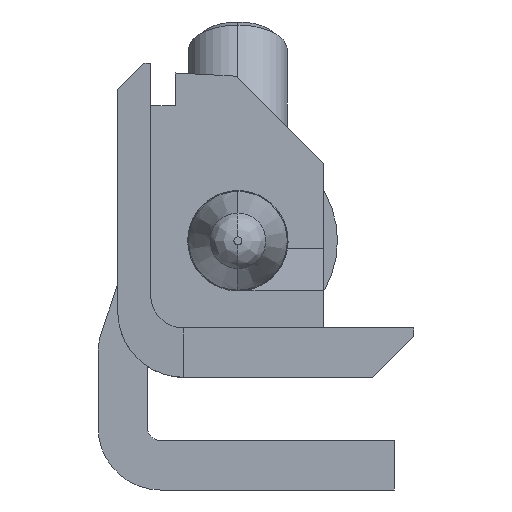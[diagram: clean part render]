
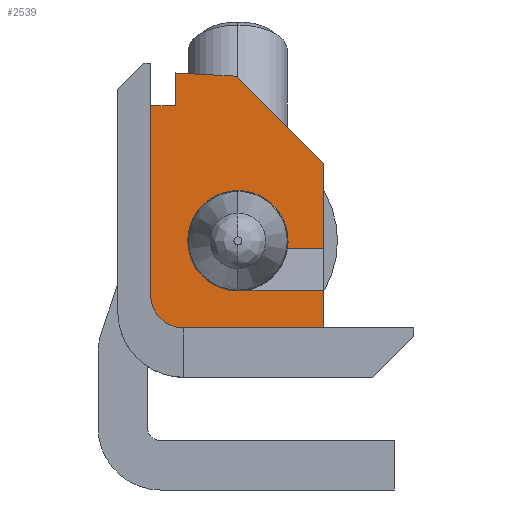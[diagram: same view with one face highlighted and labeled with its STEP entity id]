
A CAD part, left-side view. The second image highlights one B-rep face of the part: STEP entity #2539.
In plain terms, the highlighted planar face has unit normal (-1, -0.018, 0).
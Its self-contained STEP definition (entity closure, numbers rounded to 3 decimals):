
#5 =( BOUNDED_CURVE ( )  B_SPLINE_CURVE ( 3, ( #2152, #1087, #228, #650 ),
 .UNSPECIFIED., .F., .F. ) 
 B_SPLINE_CURVE_WITH_KNOTS ( ( 4, 4 ),
 ( 4.712, 7.854 ),
 .UNSPECIFIED. ) 
 CURVE ( )  GEOMETRIC_REPRESENTATION_ITEM ( )  RATIONAL_B_SPLINE_CURVE ( ( 1., 0.333, 0.333, 1. ) ) 
 REPRESENTATION_ITEM ( '' )  );
#17 = EDGE_CURVE ( 'NONE', #823, #657, #2260, .T. ) ;
#31 = ORIENTED_EDGE ( 'NONE', *, *, #675, .T. ) ;
#32 = CARTESIAN_POINT ( 'NONE',  ( -10.5, -5.2, 4.7 ) ) ;
#74 = EDGE_CURVE ( 'NONE', #1156, #424, #1556, .T. ) ;
#76 = EDGE_CURVE ( 'NONE', #1465, #385, #5, .T. ) ;
#86 = LINE ( 'NONE', #800, #2343 ) ;
#124 = CARTESIAN_POINT ( 'NONE',  ( -10.669, 4.472, -5.3 ) ) ;
#139 = DIRECTION ( 'NONE',  ( 0., 0., -1. ) ) ;
#164 = DIRECTION ( 'NONE',  ( 0., 0., 1. ) ) ;
#167 = CARTESIAN_POINT ( 'NONE',  ( -10.683, 5.3, -3.3 ) ) ;
#185 = LINE ( 'NONE', #2712, #1261 ) ;
#209 = VECTOR ( 'NONE', #1221, 1000. ) ;
#228 = CARTESIAN_POINT ( 'NONE',  ( -10.697, 6.1, 3.05 ) ) ;
#231 = ORIENTED_EDGE ( 'NONE', *, *, #1606, .T. ) ;
#249 = VECTOR ( 'NONE', #2372, 1000. ) ;
#276 = LINE ( 'NONE', #1382, #209 ) ;
#282 = VECTOR ( 'NONE', #2734, 1000. ) ;
#306 = CARTESIAN_POINT ( 'NONE',  ( -10.581, -0.55, -3. ) ) ;
#324 =( BOUNDED_CURVE ( )  B_SPLINE_CURVE ( 3, ( #1960, #1316, #2573, #1099 ),
 .UNSPECIFIED., .F., .T. ) 
 B_SPLINE_CURVE_WITH_KNOTS ( ( 4, 4 ),
 ( 1.571, 3.305 ),
 .UNSPECIFIED. ) 
 CURVE ( )  GEOMETRIC_REPRESENTATION_ITEM ( )  RATIONAL_B_SPLINE_CURVE ( ( 1., 0.765, 0.765, 1. ) ) 
 REPRESENTATION_ITEM ( '' )  );
#358 = CARTESIAN_POINT ( 'NONE',  ( -10.588, -0.185, -3.05 ) ) ;
#375 = VERTEX_POINT ( 'NONE', #777 ) ;
#385 = VERTEX_POINT ( 'NONE', #2676 ) ;
#401 = CARTESIAN_POINT ( 'NONE',  ( -10.648, 3.3, -5.3 ) ) ;
#413 = VERTEX_POINT ( 'NONE', #974 ) ;
#424 = VERTEX_POINT ( 'NONE', #1834 ) ;
#473 = CARTESIAN_POINT ( 'NONE',  ( -10.5, -5.2, 8.2 ) ) ;
#552 = LINE ( 'NONE', #934, #2415 ) ;
#592 = DIRECTION ( 'NONE',  ( -1., -0.017, 0. ) ) ;
#604 = ORIENTED_EDGE ( 'NONE', *, *, #642, .T. ) ;
#627 = VERTEX_POINT ( 'NONE', #682 ) ;
#642 = EDGE_CURVE ( 'NONE', #385, #627, #324, .T. ) ;
#650 = CARTESIAN_POINT ( 'NONE',  ( -10.591, 0., 3.05 ) ) ;
#657 = VERTEX_POINT ( 'NONE', #1300 ) ;
#675 = EDGE_CURVE ( 'NONE', #375, #1030, #1482, .T. ) ;
#682 = CARTESIAN_POINT ( 'NONE',  ( -10.538, -3.009, -0.497 ) ) ;
#689 = ORIENTED_EDGE ( 'NONE', *, *, #17, .T. ) ;
#710 = ORIENTED_EDGE ( 'NONE', *, *, #2478, .T. ) ;
#742 = VERTEX_POINT ( 'NONE', #401 ) ;
#748 = LINE ( 'NONE', #2050, #1683 ) ;
#755 = CARTESIAN_POINT ( 'NONE',  ( -10.591, 0., -3.05 ) ) ;
#777 = CARTESIAN_POINT ( 'NONE',  ( -10.5, -5.2, -0.5 ) ) ;
#800 = CARTESIAN_POINT ( 'NONE',  ( -10.5, -5.2, 4.7 ) ) ;
#823 = VERTEX_POINT ( 'NONE', #2295 ) ;
#888 = LINE ( 'NONE', #32, #249 ) ;
#934 = CARTESIAN_POINT ( 'NONE',  ( -10.683, 5.3, 10.7 ) ) ;
#949 = CARTESIAN_POINT ( 'NONE',  ( -10.581, -0.55, -3. ) ) ;
#955 = LINE ( 'NONE', #1806, #1716 ) ;
#974 = CARTESIAN_POINT ( 'NONE',  ( -10.5, -5.2, -3. ) ) ;
#1028 = DIRECTION ( 'NONE',  ( 0.017, -1., 0. ) ) ;
#1030 = VERTEX_POINT ( 'NONE', #2402 ) ;
#1048 = VECTOR ( 'NONE', #2559, 1000. ) ;
#1087 = CARTESIAN_POINT ( 'NONE',  ( -10.697, 6.1, -3.05 ) ) ;
#1099 = CARTESIAN_POINT ( 'NONE',  ( -10.538, -3.009, -0.497 ) ) ;
#1123 = DIRECTION ( 'NONE',  ( 0., 0., -1. ) ) ;
#1156 = VERTEX_POINT ( 'NONE', #1588 ) ;
#1183 = EDGE_CURVE ( 'NONE', #413, #2467, #748, .T. ) ;
#1221 = DIRECTION ( 'NONE',  ( 0.017, -1., -0.001 ) ) ;
#1250 = EDGE_CURVE ( 'NONE', #657, #1441, #552, .T. ) ;
#1261 = VECTOR ( 'NONE', #1028, 1000. ) ;
#1300 = CARTESIAN_POINT ( 'NONE',  ( -10.683, 5.3, 8.2 ) ) ;
#1316 = CARTESIAN_POINT ( 'NONE',  ( -10.555, -2.028, 3.05 ) ) ;
#1349 = ORIENTED_EDGE ( 'NONE', *, *, #2548, .T. ) ;
#1382 = CARTESIAN_POINT ( 'NONE',  ( -10.538, -3.009, -0.497 ) ) ;
#1434 = CARTESIAN_POINT ( 'NONE',  ( -10.5, -5.2, 4.7 ) ) ;
#1436 = EDGE_CURVE ( 'NONE', #424, #823, #955, .T. ) ;
#1441 = VERTEX_POINT ( 'NONE', #167 ) ;
#1465 = VERTEX_POINT ( 'NONE', #755 ) ;
#1482 = LINE ( 'NONE', #1700, #282 ) ;
#1486 = EDGE_LOOP ( 'NONE', ( #1349, #1502, #710, #2288, #604, #1627, #31, #2072, #2495, #2743, #689, #2138, #231, #2095 ) ) ;
#1502 = ORIENTED_EDGE ( 'NONE', *, *, #1183, .T. ) ;
#1556 = LINE ( 'NONE', #2569, #1048 ) ;
#1588 = CARTESIAN_POINT ( 'NONE',  ( -10.593, 0.106, 10.006 ) ) ;
#1590 =( BOUNDED_CURVE ( )  B_SPLINE_CURVE ( 3, ( #2075, #2097, #124, #2741 ),
 .UNSPECIFIED., .F., .F. ) 
 B_SPLINE_CURVE_WITH_KNOTS ( ( 4, 4 ),
 ( 3.142, 4.712 ),
 .UNSPECIFIED. ) 
 CURVE ( )  GEOMETRIC_REPRESENTATION_ITEM ( )  RATIONAL_B_SPLINE_CURVE ( ( 1., 0.805, 0.805, 1. ) ) 
 REPRESENTATION_ITEM ( '' )  );
#1602 = CARTESIAN_POINT ( 'NONE',  ( -10.584, -0.368, -3.033 ) ) ;
#1606 = EDGE_CURVE ( 'NONE', #1441, #742, #1590, .T. ) ;
#1627 = ORIENTED_EDGE ( 'NONE', *, *, #2491, .T. ) ;
#1683 = VECTOR ( 'NONE', #2169, 1000. ) ;
#1700 = CARTESIAN_POINT ( 'NONE',  ( -10.5, -5.2, 4.7 ) ) ;
#1716 = VECTOR ( 'NONE', #139, 1000. ) ;
#1793 = FACE_OUTER_BOUND ( 'NONE', #1486, .T. ) ;
#1806 = CARTESIAN_POINT ( 'NONE',  ( -10.657, 3.8, 4.7 ) ) ;
#1818 = EDGE_CURVE ( 'NONE', #1030, #1156, #888, .T. ) ;
#1834 = CARTESIAN_POINT ( 'NONE',  ( -10.657, 3.8, 10.2 ) ) ;
#1850 = CARTESIAN_POINT ( 'NONE',  ( -10.591, 0., -3.05 ) ) ;
#1870 = PLANE ( 'NONE',  #2222 ) ;
#1879 = EDGE_CURVE ( 'NONE', #742, #2550, #185, .T. ) ;
#1960 = CARTESIAN_POINT ( 'NONE',  ( -10.591, 0., 3.05 ) ) ;
#2050 = CARTESIAN_POINT ( 'NONE',  ( -10.5, -5.2, -3. ) ) ;
#2072 = ORIENTED_EDGE ( 'NONE', *, *, #1818, .T. ) ;
#2075 = CARTESIAN_POINT ( 'NONE',  ( -10.683, 5.3, -3.3 ) ) ;
#2079 = DIRECTION ( 'NONE',  ( 0.017, -1., 0. ) ) ;
#2095 = ORIENTED_EDGE ( 'NONE', *, *, #1879, .T. ) ;
#2097 = CARTESIAN_POINT ( 'NONE',  ( -10.683, 5.3, -4.472 ) ) ;
#2138 = ORIENTED_EDGE ( 'NONE', *, *, #1250, .T. ) ;
#2152 = CARTESIAN_POINT ( 'NONE',  ( -10.591, 0., -3.05 ) ) ;
#2169 = DIRECTION ( 'NONE',  ( -0.017, 1., 0. ) ) ;
#2172 =( BOUNDED_CURVE ( )  B_SPLINE_CURVE ( 3, ( #306, #1602, #358, #1850 ),
 .UNSPECIFIED., .F., .F. ) 
 B_SPLINE_CURVE_WITH_KNOTS ( ( 4, 4 ),
 ( 4.531, 4.712 ),
 .UNSPECIFIED. ) 
 CURVE ( )  GEOMETRIC_REPRESENTATION_ITEM ( )  RATIONAL_B_SPLINE_CURVE ( ( 1., 0.997, 0.997, 1. ) ) 
 REPRESENTATION_ITEM ( '' )  );
#2222 = AXIS2_PLACEMENT_3D ( 'NONE', #1434, #592, #2079 ) ;
#2260 = LINE ( 'NONE', #473, #2291 ) ;
#2288 = ORIENTED_EDGE ( 'NONE', *, *, #76, .T. ) ;
#2291 = VECTOR ( 'NONE', #2591, 1000. ) ;
#2294 = CARTESIAN_POINT ( 'NONE',  ( -10.5, -5.2, -5.3 ) ) ;
#2295 = CARTESIAN_POINT ( 'NONE',  ( -10.657, 3.8, 8.2 ) ) ;
#2343 = VECTOR ( 'NONE', #164, 1000. ) ;
#2372 = DIRECTION ( 'NONE',  ( -0.012, 0.707, 0.707 ) ) ;
#2402 = CARTESIAN_POINT ( 'NONE',  ( -10.5, -5.2, 4.7 ) ) ;
#2415 = VECTOR ( 'NONE', #1123, 1000. ) ;
#2467 = VERTEX_POINT ( 'NONE', #949 ) ;
#2478 = EDGE_CURVE ( 'NONE', #2467, #1465, #2172, .T. ) ;
#2491 = EDGE_CURVE ( 'NONE', #627, #375, #276, .T. ) ;
#2495 = ORIENTED_EDGE ( 'NONE', *, *, #74, .T. ) ;
#2539 = ADVANCED_FACE ( 'NONE', ( #1793 ), #1870, .T. ) ;
#2548 = EDGE_CURVE ( 'NONE', #2550, #413, #86, .T. ) ;
#2550 = VERTEX_POINT ( 'NONE', #2294 ) ;
#2559 = DIRECTION ( 'NONE',  ( -0.017, 0.998, 0.052 ) ) ;
#2569 = CARTESIAN_POINT ( 'NONE',  ( -10.593, 0.106, 10.006 ) ) ;
#2573 = CARTESIAN_POINT ( 'NONE',  ( -10.532, -3.34, 1.504 ) ) ;
#2591 = DIRECTION ( 'NONE',  ( -0.017, 1., 0. ) ) ;
#2676 = CARTESIAN_POINT ( 'NONE',  ( -10.591, 0., 3.05 ) ) ;
#2712 = CARTESIAN_POINT ( 'NONE',  ( -10.648, 3.3, -5.3 ) ) ;
#2734 = DIRECTION ( 'NONE',  ( 0., 0., 1. ) ) ;
#2741 = CARTESIAN_POINT ( 'NONE',  ( -10.648, 3.3, -5.3 ) ) ;
#2743 = ORIENTED_EDGE ( 'NONE', *, *, #1436, .T. ) ;
